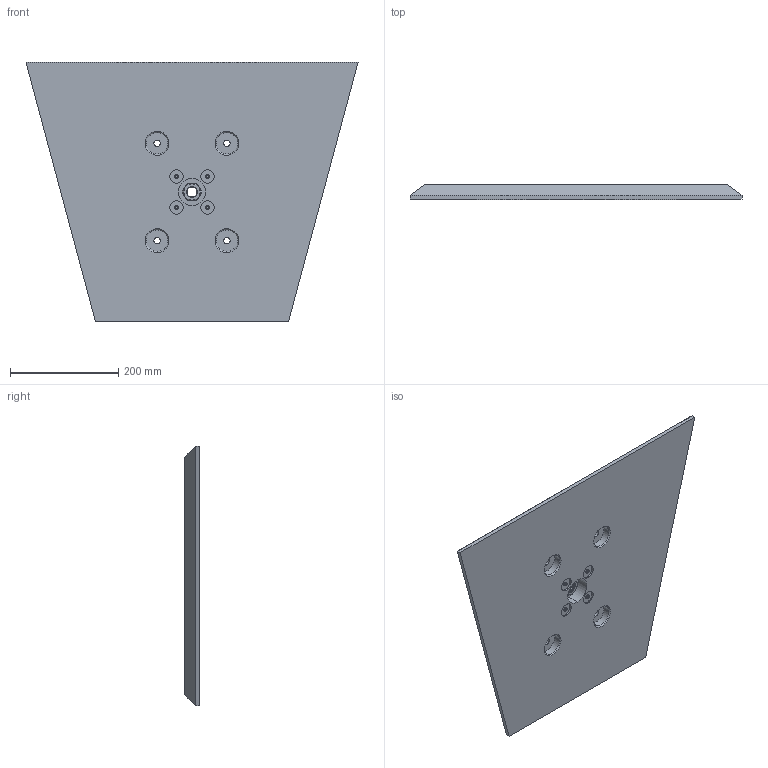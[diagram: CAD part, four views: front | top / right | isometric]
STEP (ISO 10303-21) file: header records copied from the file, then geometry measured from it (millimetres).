
FILE_DESCRIPTION (( 'STEP AP203' ), '1' );
FILE_NAME ('SEEBURG_Baseplate_small.STEP', '2014-04-04T07:13:38', ( 'Michael Anter' ), ( 'SEEBURG acoustic line GmbH' ), 'SwSTEP 2.0', 'SolidWorks 2009', '' );
FILE_SCHEMA (( 'CONFIG_CONTROL_DESIGN' ));
Length unit declared in the file: millimetre
Products named in the file (7): Socket Countersunk Head Screw_DIN_DIN 7991 - M6 x 25 --- 25S; bead1; Hex Thin Nut Chamfered GradeAB_DIN_Hexagon Thin Nut ISO 4035 - M20 - S; M20-Flansch-Basisplatte; M20-Flansch-komplett; Bodenplatte_Monopods_klein; SEEBURG_Baseplate_small
Assembly tree (9 placements, depth 3):
  SEEBURG_Baseplate_small
    Socket Countersunk Head Screw_DIN_DIN 7991 - M6 x 25 --- 25S  x4
    M20-Flansch-komplett
      Hex Thin Nut Chamfered GradeAB_DIN_Hexagon Thin Nut ISO 4035 - M20 - S
      M20-Flansch-Basisplatte
      bead1
    Bodenplatte_Monopods_klein
Bounding box: 613.45 x 27 x 479.11 mm (x, y, z)
Volume: 5749276.5 mm3; surface area: 527112.9 mm2
Topology: 8 solids, 8 shells, 758 faces, 1906 edges, 1168 vertices
Faces by surface type: cone 414, cylinder 232, plane 98, torus 8, bspline 6
Entity records: 10121 total; most frequent: CARTESIAN_POINT 1946, DIRECTION 1708, ORIENTED_EDGE 1456, EDGE_CURVE 728, AXIS2_PLACEMENT_3D 695, VERTEX_POINT 445, CIRCLE 386, EDGE_LOOP 343
